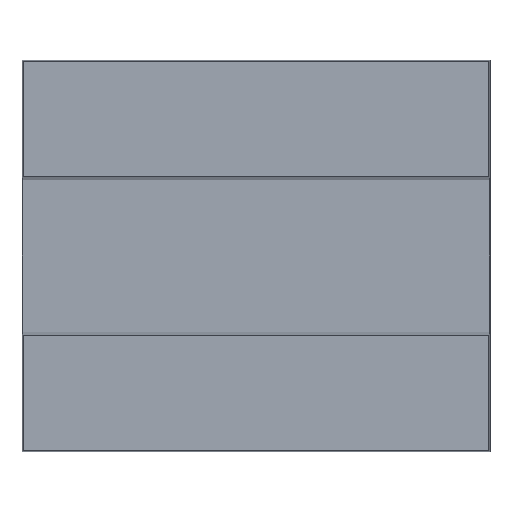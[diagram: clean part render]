
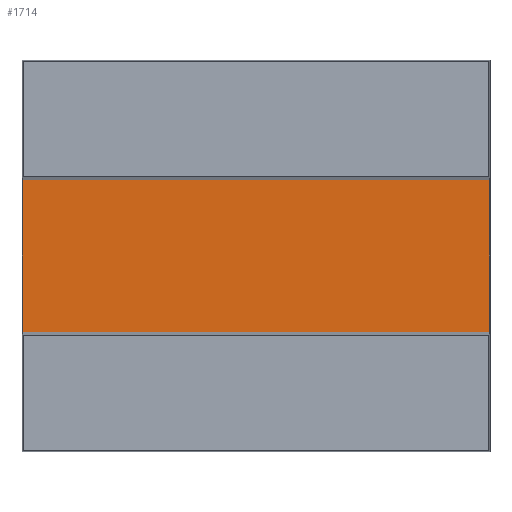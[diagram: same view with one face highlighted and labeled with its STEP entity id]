
A CAD part, front view. The second image highlights one B-rep face of the part: STEP entity #1714.
In plain terms, the highlighted planar face has unit normal (0, -1, 0).
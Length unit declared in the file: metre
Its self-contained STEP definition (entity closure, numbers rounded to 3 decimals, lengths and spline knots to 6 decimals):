
#93=ORIENTED_EDGE('',*,*,#556,.T.);
#94=ORIENTED_EDGE('',*,*,#552,.T.);
#95=ORIENTED_EDGE('',*,*,#557,.F.);
#96=ORIENTED_EDGE('',*,*,#538,.F.);
#538=EDGE_CURVE('',#778,#779,#943,.F.);
#552=EDGE_CURVE('',#786,#789,#957,.T.);
#556=EDGE_CURVE('',#778,#786,#961,.T.);
#557=EDGE_CURVE('',#779,#789,#962,.T.);
#778=VERTEX_POINT('',#2337);
#779=VERTEX_POINT('',#2339);
#786=VERTEX_POINT('',#2357);
#789=VERTEX_POINT('',#2364);
#943=LINE('',#2338,#1166);
#957=LINE('',#2365,#1180);
#961=LINE('',#2372,#1184);
#962=LINE('',#2374,#1185);
#1166=VECTOR('',#1926,1.);
#1180=VECTOR('',#1944,1.);
#1184=VECTOR('',#1954,1.);
#1185=VECTOR('',#1957,1.);
#1389=EDGE_LOOP('',(#93,#94,#95,#96));
#1510=FACE_BOUND('',#1389,.T.);
#1631=PLANE('',#1827);
#1714=ADVANCED_FACE('',(#1510),#1631,.F.);
#1827=AXIS2_PLACEMENT_3D('',#2375,#1958,#1959);
#1926=DIRECTION('',(0.,0.,1.));
#1944=DIRECTION('',(0.,0.,-1.));
#1954=DIRECTION('',(-1.,0.,0.));
#1957=DIRECTION('',(-1.,0.,0.));
#1958=DIRECTION('',(0.,1.,0.));
#1959=DIRECTION('',(0.,0.,1.));
#2337=CARTESIAN_POINT('',(0.053579,-0.0098,0.0175));
#2338=CARTESIAN_POINT('',(0.053579,-0.0098,-0.045));
#2339=CARTESIAN_POINT('',(0.053579,-0.0098,-0.0175));
#2357=CARTESIAN_POINT('',(-0.053579,-0.0098,0.0175));
#2364=CARTESIAN_POINT('',(-0.053579,-0.0098,-0.0175));
#2365=CARTESIAN_POINT('',(-0.053579,-0.0098,-0.045));
#2372=CARTESIAN_POINT('',(0.155342,-0.0098,0.0175));
#2374=CARTESIAN_POINT('',(0.155342,-0.0098,-0.0175));
#2375=CARTESIAN_POINT('',(0.155342,-0.0098,0.));
